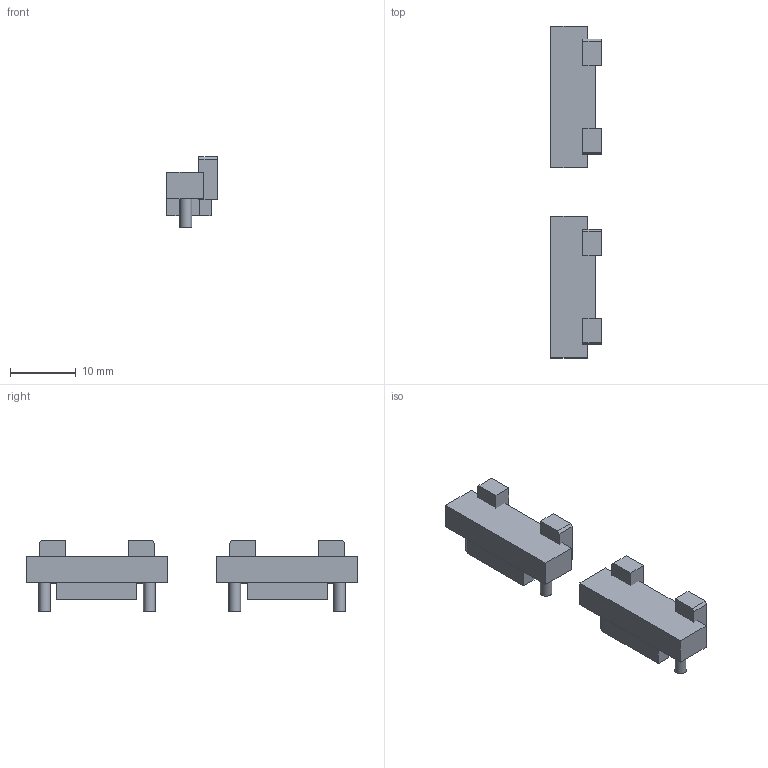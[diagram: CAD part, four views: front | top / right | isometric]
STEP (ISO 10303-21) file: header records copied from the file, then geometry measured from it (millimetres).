
FILE_DESCRIPTION(('Open CASCADE Model'),'2;1');
FILE_NAME('Open CASCADE Shape Model','2026-09-15T13:49:33',('Author'),( 'Open CASCADE'),'Open CASCADE STEP processor 7.7','Open CASCADE 7.7' ,'Unknown');
FILE_SCHEMA(('AUTOMOTIVE_DESIGN { 1 0 10303 214 1 1 1 1 }'));
Length unit declared in the file: millimetre
Products named in the file (17): ASSEMBLY; SOLID
Assembly tree (16 placements, depth 2):
  ASSEMBLY
    SOLID
    SOLID
    SOLID
    SOLID
    SOLID
    SOLID
    SOLID
    SOLID
    SOLID
    SOLID
    SOLID
    SOLID
    SOLID
    SOLID
    SOLID
    SOLID
Bounding box: 7.7 x 50.6 x 10.8 mm (x, y, z)
Volume: 1848.6 mm3; surface area: 2317.7 mm2
Topology: 16 solids, 16 shells, 96 faces, 192 edges, 128 vertices
Faces by surface type: plane 88, cylinder 8
Full cylindrical faces by diameter (mm): 1.8 x4
Entity records: 5192 total; most frequent: CARTESIAN_POINT 841, DIRECTION 794, LINE 520, VECTOR 520, ORIENTED_EDGE 384, PCURVE 384, DEFINITIONAL_REPRESENTATION 384, EDGE_CURVE 192
